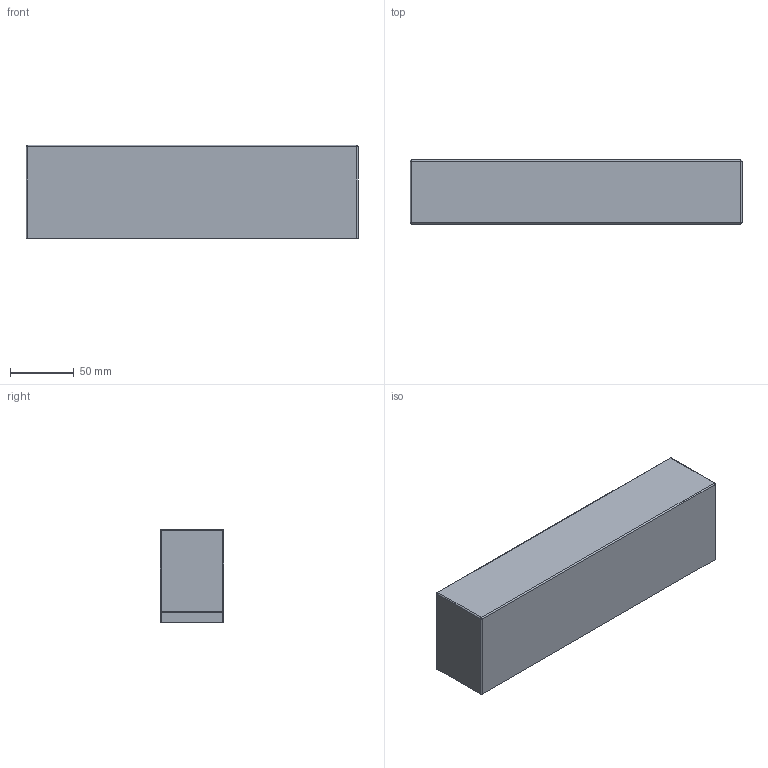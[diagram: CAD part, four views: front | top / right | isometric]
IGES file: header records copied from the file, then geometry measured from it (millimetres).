
Start section: SolidWorks IGES file using NURBS representation for surfaces
Global section: file name: Z:\Modele 3D_WWW\_KOLEKCJE_WWW\STRAIGHT\STRAIGHT-WALL-XS-6345-6354-6350-7601\STRAIGHT-WALL-XS-6345-6354-6350-7601.IGS; native system: SolidWorks 2021; preprocessor: SolidWorks 2021; author: gabriela.tworek; date: 211104.072743; units: millimetre
Bounding box: 260 x 50 x 73 mm (x, y, z)
Surface area: 143213.1 mm2 (no closed solid volume)
Topology: 0 solids, 0 shells, 36 faces, 196 edges, 192 vertices
Faces by surface type: bspline 36
